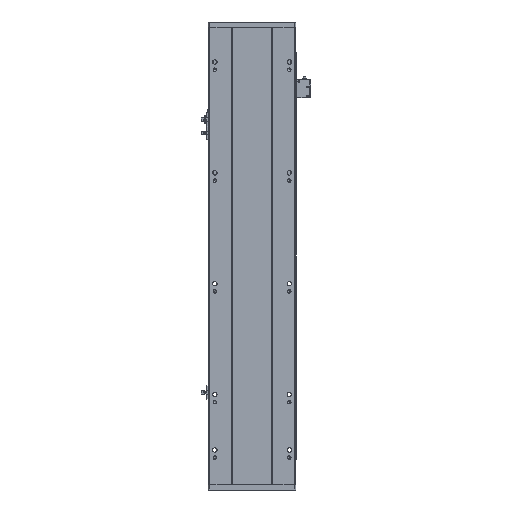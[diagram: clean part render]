
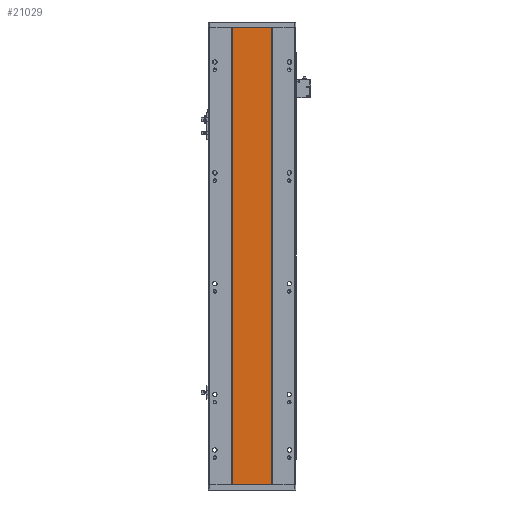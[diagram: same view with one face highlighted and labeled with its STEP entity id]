
A CAD part, front view. The second image highlights one B-rep face of the part: STEP entity #21029.
In plain terms, the highlighted planar face has unit normal (0, -1, 0).
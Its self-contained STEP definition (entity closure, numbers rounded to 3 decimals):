
#115 = LINE ( 'NONE', #14540, #24641 ) ;
#545 = PLANE ( 'NONE',  #7571 ) ;
#642 = VECTOR ( 'NONE', #29691, 1000. ) ;
#1972 = DIRECTION ( 'NONE',  ( 0., 0., -1. ) ) ;
#2762 = ORIENTED_EDGE ( 'NONE', *, *, #8733, .T. ) ;
#4330 = LINE ( 'NONE', #17085, #28170 ) ;
#5653 = EDGE_LOOP ( 'NONE', ( #2762, #30810, #7297, #17266 ) ) ;
#7297 = ORIENTED_EDGE ( 'NONE', *, *, #27446, .F. ) ;
#7571 = AXIS2_PLACEMENT_3D ( 'NONE', #14957, #24129, #19573 ) ;
#7587 = DIRECTION ( 'NONE',  ( 0., 0., -1. ) ) ;
#7685 = LINE ( 'NONE', #22422, #642 ) ;
#7743 = CARTESIAN_POINT ( 'NONE',  ( 205.288, 16.9, 0. ) ) ;
#8025 = CARTESIAN_POINT ( 'NONE',  ( 129.288, 16.9, 0. ) ) ;
#8733 = EDGE_CURVE ( 'NONE', #25492, #11664, #7685, .T. ) ;
#11664 = VERTEX_POINT ( 'NONE', #7743 ) ;
#14540 = CARTESIAN_POINT ( 'NONE',  ( 129.288, 16.9, 892. ) ) ;
#14927 = VECTOR ( 'NONE', #1972, 1000. ) ;
#14957 = CARTESIAN_POINT ( 'NONE',  ( 205.288, 16.9, 892. ) ) ;
#16160 = VERTEX_POINT ( 'NONE', #17377 ) ;
#16183 = FACE_OUTER_BOUND ( 'NONE', #5653, .T. ) ;
#17085 = CARTESIAN_POINT ( 'NONE',  ( 129.288, 16.9, 892. ) ) ;
#17266 = ORIENTED_EDGE ( 'NONE', *, *, #19404, .T. ) ;
#17377 = CARTESIAN_POINT ( 'NONE',  ( 129.288, 16.9, 892. ) ) ;
#19404 = EDGE_CURVE ( 'NONE', #16160, #25492, #115, .T. ) ;
#19573 = DIRECTION ( 'NONE',  ( -1., 0., 0. ) ) ;
#21029 = ADVANCED_FACE ( 'NONE', ( #16183 ), #545, .F. ) ;
#21296 = LINE ( 'NONE', #25559, #14927 ) ;
#21482 = CARTESIAN_POINT ( 'NONE',  ( 205.288, 16.9, 892. ) ) ;
#22422 = CARTESIAN_POINT ( 'NONE',  ( 205.288, 16.9, 0. ) ) ;
#24129 = DIRECTION ( 'NONE',  ( 0., 1., 0. ) ) ;
#24641 = VECTOR ( 'NONE', #7587, 1000. ) ;
#25492 = VERTEX_POINT ( 'NONE', #8025 ) ;
#25559 = CARTESIAN_POINT ( 'NONE',  ( 205.288, 16.9, 892. ) ) ;
#26653 = DIRECTION ( 'NONE',  ( 1., 0., 0. ) ) ;
#27446 = EDGE_CURVE ( 'NONE', #16160, #29906, #4330, .T. ) ;
#28170 = VECTOR ( 'NONE', #26653, 1000. ) ;
#29691 = DIRECTION ( 'NONE',  ( 1., 0., 0. ) ) ;
#29906 = VERTEX_POINT ( 'NONE', #21482 ) ;
#30810 = ORIENTED_EDGE ( 'NONE', *, *, #30819, .F. ) ;
#30819 = EDGE_CURVE ( 'NONE', #29906, #11664, #21296, .T. ) ;
